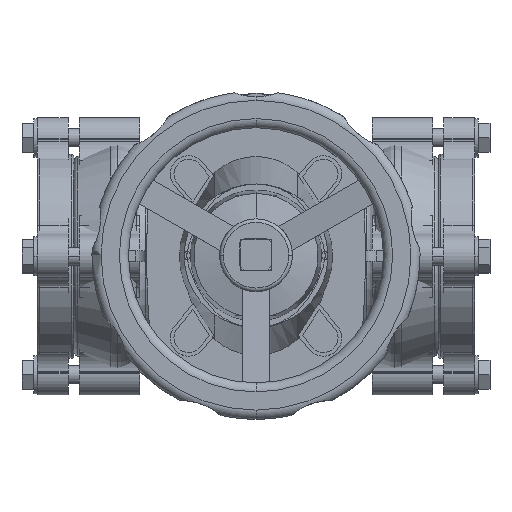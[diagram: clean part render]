
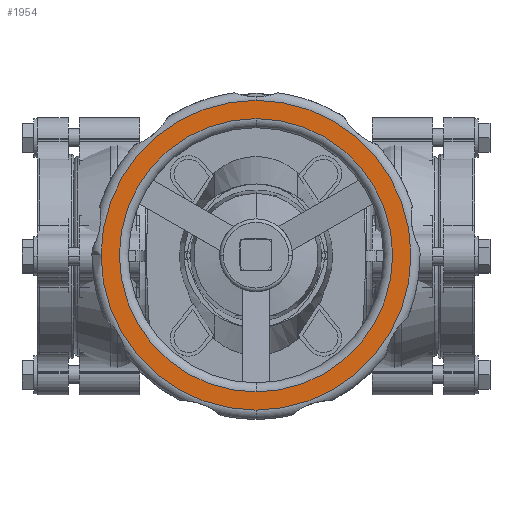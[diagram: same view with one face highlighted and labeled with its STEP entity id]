
A CAD part, top view. The second image highlights one B-rep face of the part: STEP entity #1954.
In plain terms, the highlighted planar face has unit normal (0, 0, 1).
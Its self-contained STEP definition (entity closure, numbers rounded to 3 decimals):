
#1954=ADVANCED_FACE('',(#4194,#4195),#4196,.T.);
#4194=FACE_BOUND('',#7427,.T.);
#4195=FACE_OUTER_BOUND('',#7428,.T.);
#4196=PLANE('',#7429);
#7427=EDGE_LOOP('',(#10738,#10739,#10740));
#7428=EDGE_LOOP('',(#10741,#10742,#10743));
#7429=AXIS2_PLACEMENT_3D('',#10744,#10745,#10746);
#10738=ORIENTED_EDGE('',*,*,#17822,.F.);
#10739=ORIENTED_EDGE('',*,*,#17823,.F.);
#10740=ORIENTED_EDGE('',*,*,#17824,.F.);
#10741=ORIENTED_EDGE('',*,*,#17825,.T.);
#10742=ORIENTED_EDGE('',*,*,#17826,.T.);
#10743=ORIENTED_EDGE('',*,*,#17827,.T.);
#10744=CARTESIAN_POINT('',(110.0,0.,343.0));
#10745=DIRECTION('',(0.,0.,1.0));
#10746=DIRECTION('',(1.0,0.,0.));
#17822=EDGE_CURVE('',#21034,#21035,#21036,.T.);
#17823=EDGE_CURVE('',#21037,#21034,#21038,.T.);
#17824=EDGE_CURVE('',#21035,#21037,#21039,.T.);
#17825=EDGE_CURVE('',#21040,#21041,#21042,.T.);
#17826=EDGE_CURVE('',#21041,#21043,#21044,.T.);
#17827=EDGE_CURVE('',#21043,#21040,#21045,.T.);
#21034=VERTEX_POINT('',#25496);
#21035=VERTEX_POINT('',#25497);
#21036=CIRCLE('',#25498,75.0);
#21037=VERTEX_POINT('',#25499);
#21038=CIRCLE('',#25500,75.0);
#21039=CIRCLE('',#25501,75.0);
#21040=VERTEX_POINT('',#25502);
#21041=VERTEX_POINT('',#25503);
#21042=CIRCLE('',#25504,85.0);
#21043=VERTEX_POINT('',#25505);
#21044=CIRCLE('',#25506,85.0);
#21045=CIRCLE('',#25507,85.0);
#25496=CARTESIAN_POINT('',(105.0,0.,343.0));
#25497=CARTESIAN_POINT('',(30.0,75.0,343.0));
#25498=AXIS2_PLACEMENT_3D('',#30691,#30692,#30693);
#25499=CARTESIAN_POINT('',(30.0,-75.0,343.0));
#25500=AXIS2_PLACEMENT_3D('',#30694,#30695,#30696);
#25501=AXIS2_PLACEMENT_3D('',#30697,#30698,#30699);
#25502=CARTESIAN_POINT('',(115.0,0.,343.0));
#25503=CARTESIAN_POINT('',(30.0,85.0,343.0));
#25504=AXIS2_PLACEMENT_3D('',#30700,#30701,#30702);
#25505=CARTESIAN_POINT('',(30.0,-85.0,343.0));
#25506=AXIS2_PLACEMENT_3D('',#30703,#30704,#30705);
#25507=AXIS2_PLACEMENT_3D('',#30706,#30707,#30708);
#30691=CARTESIAN_POINT('',(30.0,0.,343.0));
#30692=DIRECTION('',(0.,0.,1.0));
#30693=DIRECTION('',(1.0,0.,0.));
#30694=CARTESIAN_POINT('',(30.0,0.,343.0));
#30695=DIRECTION('',(0.,0.,1.0));
#30696=DIRECTION('',(1.0,0.,0.));
#30697=CARTESIAN_POINT('',(30.0,0.,343.0));
#30698=DIRECTION('',(0.,0.,1.0));
#30699=DIRECTION('',(1.0,0.,0.));
#30700=CARTESIAN_POINT('',(30.0,0.,343.0));
#30701=DIRECTION('',(0.,0.,1.0));
#30702=DIRECTION('',(1.0,0.,0.));
#30703=CARTESIAN_POINT('',(30.0,0.,343.0));
#30704=DIRECTION('',(0.,0.,1.0));
#30705=DIRECTION('',(1.0,0.,0.));
#30706=CARTESIAN_POINT('',(30.0,0.,343.0));
#30707=DIRECTION('',(0.,0.,1.0));
#30708=DIRECTION('',(1.0,0.,0.));
